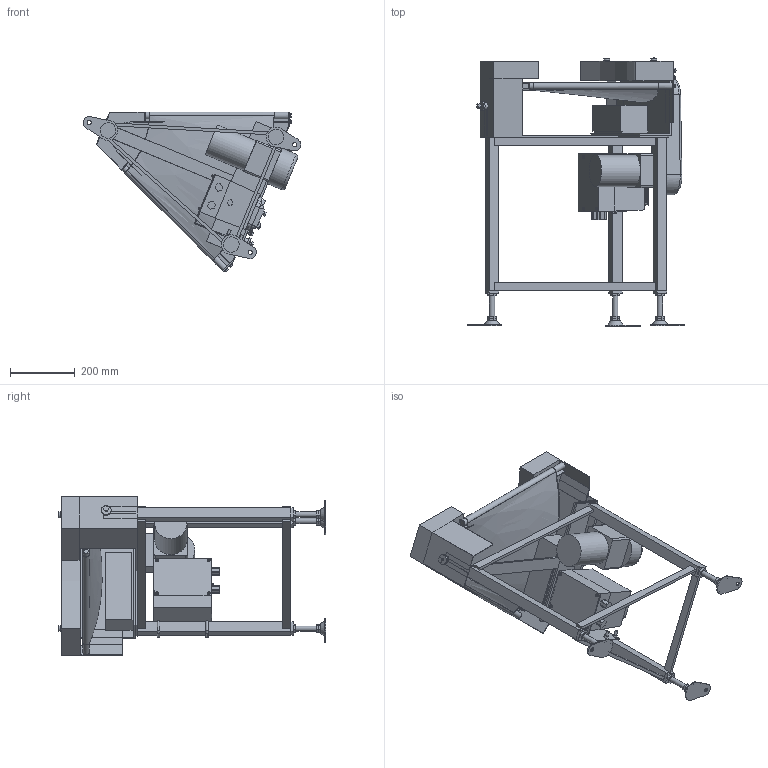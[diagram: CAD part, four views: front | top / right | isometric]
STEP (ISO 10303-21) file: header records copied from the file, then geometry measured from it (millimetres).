
FILE_DESCRIPTION (( 'STEP AP214' ), '1' );
FILE_NAME ('GFBC45-UD300-R.STEP', '2022-09-08T07:36:48', ( '' ), ( '' ), 'SwSTEP 2.0', 'SolidWorks 2017', '' );
FILE_SCHEMA (( 'AUTOMOTIVE_DESIGN' ));
Length unit declared in the file: millimetre
Products named in the file (1): GFBC45-UD300-R
Bounding box: 673.18 x 827.92 x 494.15 mm (x, y, z)
Volume: 17744316.5 mm3; surface area: 2667114.4 mm2
Topology: 54 solids, 55 shells, 942 faces, 2146 edges, 1393 vertices
Faces by surface type: plane 688, cylinder 187, bspline 49, cone 10, torus 6, sphere 2
Full cylindrical faces by diameter (mm): 4 x4, 4.2 x2, 4.5 x1, 5 x4, 5.9 x4, 6 x9, 7 x1, 7.6 x4, 8 x15, 9 x6, 10 x2, 12 x1, 12.2 x2, 12.5 x7, 13 x7, 15 x4, 16 x9, 18 x2, 18.4 x1, 20 x7, 21 x1, 25 x1, 30 x6, 99 x1
Entity records: 43552 total; most frequent: CARTESIAN_POINT 12108, DIRECTION 4044, ORIENTED_EDGE 3996, EDGE_CURVE 1998, LINE 1426, VECTOR 1426, VERTEX_POINT 1365, AXIS2_PLACEMENT_3D 1309
